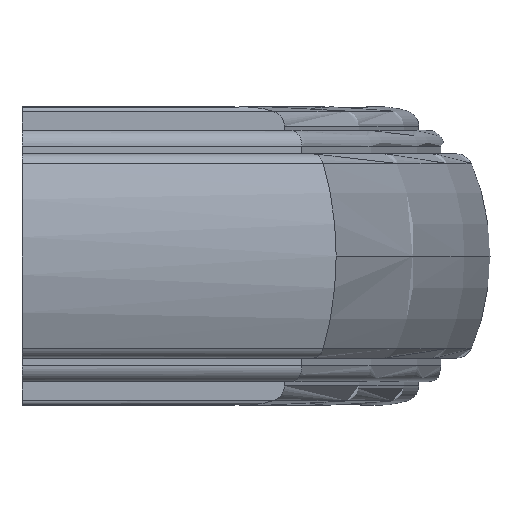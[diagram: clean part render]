
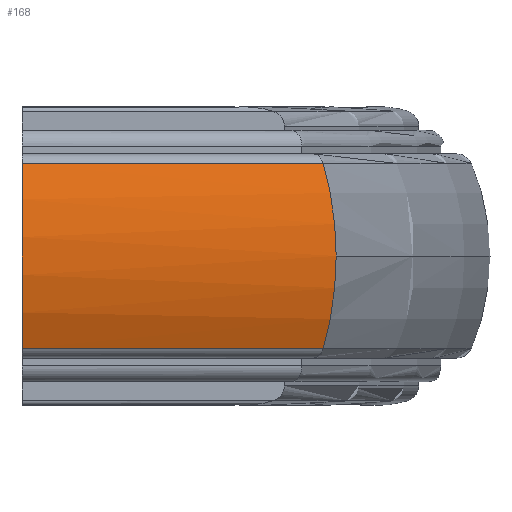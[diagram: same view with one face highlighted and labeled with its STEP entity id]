
A CAD part, left-side view. The second image highlights one B-rep face of the part: STEP entity #168.
In plain terms, the highlighted cylindrical face has radius 15 mm (diameter 30 mm), a partial arc.
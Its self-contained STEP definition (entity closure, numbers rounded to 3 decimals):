
#168 = ADVANCED_FACE( '', ( #360 ), #361, .T. );
#360 = FACE_OUTER_BOUND( '', #556, .T. );
#361 = CYLINDRICAL_SURFACE( '', #557, 15. );
#556 = EDGE_LOOP( '', ( #1322, #1323, #1324, #1325, #1326 ) );
#557 = AXIS2_PLACEMENT_3D( '', #1327, #1328, #1329 );
#1322 = ORIENTED_EDGE( '', *, *, #1598, .F. );
#1323 = ORIENTED_EDGE( '', *, *, #1655, .F. );
#1324 = ORIENTED_EDGE( '', *, *, #1599, .T. );
#1325 = ORIENTED_EDGE( '', *, *, #1470, .F. );
#1326 = ORIENTED_EDGE( '', *, *, #1393, .F. );
#1327 = CARTESIAN_POINT( '', ( 9., 0., 0. ) );
#1328 = DIRECTION( '', ( 0., 1., 0. ) );
#1329 = DIRECTION( '', ( -0.92, 0., -0.393 ) );
#1393 = EDGE_CURVE( '', #1662, #1658, #1664, .T. );
#1470 = EDGE_CURVE( '', #1658, #1798, #1801, .T. );
#1598 = EDGE_CURVE( '', #2007, #1662, #2009, .T. );
#1599 = EDGE_CURVE( '', #2010, #1798, #2011, .T. );
#1655 = EDGE_CURVE( '', #2010, #2007, #2096, .T. );
#1658 = VERTEX_POINT( '', #2099 );
#1662 = VERTEX_POINT( '', #2112 );
#1664 = B_SPLINE_CURVE_WITH_KNOTS( '', 3, ( #2114, #2115, #2116, #2117, #2118, #2119, #2120, #2121, #2122, #2123 ), .UNSPECIFIED., .F., .F., ( 4, 2, 2, 2, 4 ), ( -12.294, -9.331, -6.492, -3.788, 0. ), .UNSPECIFIED. );
#1798 = VERTEX_POINT( '', #2405 );
#1801 = B_SPLINE_CURVE_WITH_KNOTS( '', 3, ( #2417, #2418, #2419, #2420, #2421, #2422, #2423, #2424, #2425, #2426 ), .UNSPECIFIED., .F., .F., ( 4, 2, 2, 2, 4 ), ( -12.294, -9.331, -6.492, -3.788, 0. ), .UNSPECIFIED. );
#2007 = VERTEX_POINT( '', #2929 );
#2009 = LINE( '', #2931, #2932 );
#2010 = VERTEX_POINT( '', #2933 );
#2011 = LINE( '', #2934, #2935 );
#2096 = CIRCLE( '', #3086, 15. );
#2099 = CARTESIAN_POINT( '', ( -6., -20., 0. ) );
#2112 = CARTESIAN_POINT( '', ( -4.794, -19.168, 5.893 ) );
#2114 = CARTESIAN_POINT( '', ( -4.794, -19.168, 5.893 ) );
#2115 = CARTESIAN_POINT( '', ( -5.168, -19.427, 5.017 ) );
#2116 = CARTESIAN_POINT( '', ( -5.463, -19.63, 4.095 ) );
#2117 = CARTESIAN_POINT( '', ( -5.864, -19.906, 2.224 ) );
#2118 = CARTESIAN_POINT( '', ( -5.975, -19.983, 1.287 ) );
#2119 = CARTESIAN_POINT( '', ( -6.017, -20.011, -0.559 ) );
#2120 = CARTESIAN_POINT( '', ( -5.956, -19.97, -1.457 ) );
#2121 = CARTESIAN_POINT( '', ( -5.62, -19.739, -3.581 ) );
#2122 = CARTESIAN_POINT( '', ( -5.273, -19.499, -4.772 ) );
#2123 = CARTESIAN_POINT( '', ( -4.794, -19.168, -5.893 ) );
#2405 = CARTESIAN_POINT( '', ( -4.794, -19.168, -5.893 ) );
#2417 = CARTESIAN_POINT( '', ( -4.794, -19.168, 5.893 ) );
#2418 = CARTESIAN_POINT( '', ( -5.168, -19.427, 5.017 ) );
#2419 = CARTESIAN_POINT( '', ( -5.463, -19.63, 4.095 ) );
#2420 = CARTESIAN_POINT( '', ( -5.864, -19.906, 2.224 ) );
#2421 = CARTESIAN_POINT( '', ( -5.975, -19.983, 1.287 ) );
#2422 = CARTESIAN_POINT( '', ( -6.017, -20.011, -0.559 ) );
#2423 = CARTESIAN_POINT( '', ( -5.956, -19.97, -1.457 ) );
#2424 = CARTESIAN_POINT( '', ( -5.62, -19.739, -3.581 ) );
#2425 = CARTESIAN_POINT( '', ( -5.273, -19.499, -4.772 ) );
#2426 = CARTESIAN_POINT( '', ( -4.794, -19.168, -5.893 ) );
#2929 = CARTESIAN_POINT( '', ( -4.794, 0., 5.893 ) );
#2931 = CARTESIAN_POINT( '', ( -4.794, 0., 5.893 ) );
#2932 = VECTOR( '', #3375, 1. );
#2933 = CARTESIAN_POINT( '', ( -4.794, 0., -5.893 ) );
#2934 = CARTESIAN_POINT( '', ( -4.794, 0., -5.893 ) );
#2935 = VECTOR( '', #3376, 1. );
#3086 = AXIS2_PLACEMENT_3D( '', #3464, #3465, #3466 );
#3375 = DIRECTION( '', ( 0., -1., 0. ) );
#3376 = DIRECTION( '', ( 0., -1., 0. ) );
#3464 = CARTESIAN_POINT( '', ( 9., 0., 0. ) );
#3465 = DIRECTION( '', ( 0., 1., 0. ) );
#3466 = DIRECTION( '', ( -0.92, 0., -0.393 ) );
